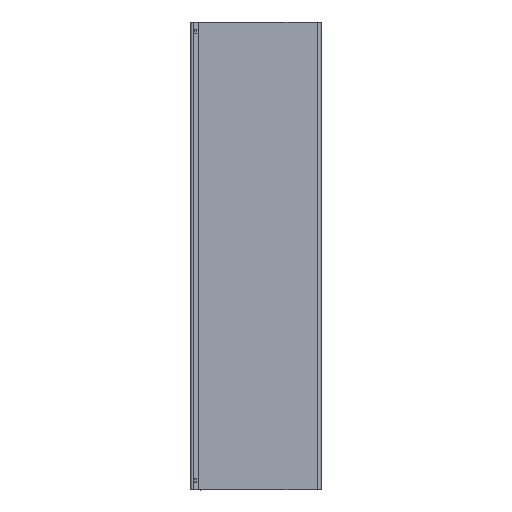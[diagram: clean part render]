
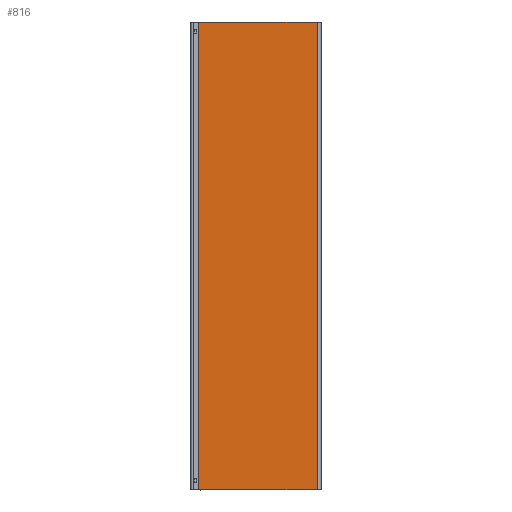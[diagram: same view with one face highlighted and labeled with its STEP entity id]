
A CAD part, top view. The second image highlights one B-rep face of the part: STEP entity #816.
In plain terms, the highlighted planar face has unit normal (0, 0, 1).
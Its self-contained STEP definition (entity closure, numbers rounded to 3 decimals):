
#37=PLANE('',#866);
#60=LINE('',#1157,#109);
#61=LINE('',#1159,#110);
#62=LINE('',#1161,#111);
#63=LINE('',#1163,#112);
#109=VECTOR('',#954,1000.);
#110=VECTOR('',#957,1000.);
#111=VECTOR('',#958,1000.);
#112=VECTOR('',#959,1000.);
#165=ORIENTED_EDGE('',*,*,#339,.F.);
#166=ORIENTED_EDGE('',*,*,#338,.F.);
#167=ORIENTED_EDGE('',*,*,#340,.T.);
#168=ORIENTED_EDGE('',*,*,#341,.T.);
#338=EDGE_CURVE('',#425,#423,#60,.T.);
#339=EDGE_CURVE('',#423,#426,#61,.T.);
#340=EDGE_CURVE('',#425,#427,#62,.T.);
#341=EDGE_CURVE('',#427,#426,#63,.T.);
#423=VERTEX_POINT('',#1152);
#425=VERTEX_POINT('',#1156);
#426=VERTEX_POINT('',#1160);
#427=VERTEX_POINT('',#1162);
#513=EDGE_LOOP('',(#165,#166,#167,#168));
#552=FACE_BOUND('',#513,.T.);
#816=ADVANCED_FACE('',(#552),#37,.T.);
#866=AXIS2_PLACEMENT_3D('',#1158,#955,#956);
#954=DIRECTION('',(0.,1.,0.));
#955=DIRECTION('',(0.,0.,1.));
#956=DIRECTION('',(0.,-1.,0.));
#957=DIRECTION('',(1.,0.,0.));
#958=DIRECTION('',(1.,0.,0.));
#959=DIRECTION('',(0.,1.,0.));
#1152=CARTESIAN_POINT('',(-61.561,250.,28.835));
#1156=CARTESIAN_POINT('',(-61.561,-250.,28.835));
#1157=CARTESIAN_POINT('',(-61.561,-250.,28.835));
#1158=CARTESIAN_POINT('',(-61.561,-250.,28.835));
#1159=CARTESIAN_POINT('',(-61.561,250.,28.835));
#1160=CARTESIAN_POINT('',(65.407,250.,28.835));
#1161=CARTESIAN_POINT('',(-61.561,-250.,28.835));
#1162=CARTESIAN_POINT('',(65.407,-250.,28.835));
#1163=CARTESIAN_POINT('',(65.407,-250.,28.835));
